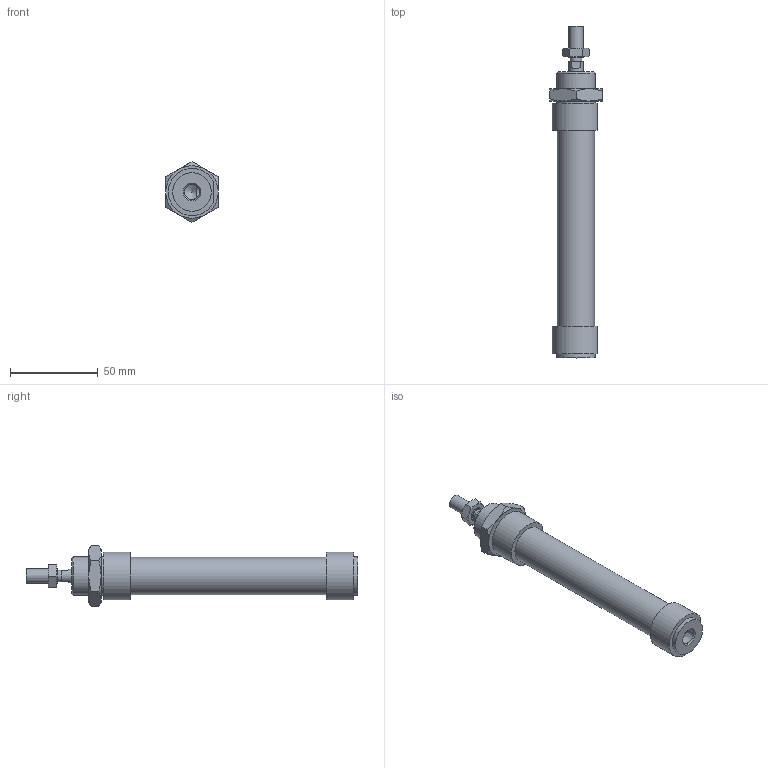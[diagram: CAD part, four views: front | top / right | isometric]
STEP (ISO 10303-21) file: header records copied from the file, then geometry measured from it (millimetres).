
FILE_DESCRIPTION((''),'2;1');
FILE_NAME('I:\Area Tecnica\Disegni\VARIE-3D\Componenti\1280\1281_##_####_#\1281_20_0075.iam.stp','2009-06-04T09:39:07',(''),(''),'Autodesk Inventor 2010','Autodesk Inventor 2010','');
FILE_SCHEMA(('AUTOMOTIVE_DESIGN { 1 0 10303 214 1 1 1 1 }'));
Length unit declared in the file: millimetre
Products named in the file (5): 1281_20_0075; C1281_20_75; S1280_20_75; 1200_20_05; 1200_20_06
Assembly tree (4 placements, depth 2):
  1281_20_0075
    C1281_20_75
    S1280_20_75
    1200_20_05
    1200_20_06
Bounding box: 30 x 189.5 x 34.64 mm (x, y, z)
Volume: 67793 mm3; surface area: 22242.2 mm2
Topology: 4 solids, 4 shells, 86 faces, 185 edges, 112 vertices
Faces by surface type: plane 36, cone 26, bspline 15, cylinder 9
Full cylindrical faces by diameter (mm): 6.5 x1, 8 x3, 21.2 x1, 22 x2
Entity records: 2537 total; most frequent: CARTESIAN_POINT 698, DIRECTION 332, ORIENTED_EDGE 310, EDGE_CURVE 155, AXIS2_PLACEMENT_3D 148, EDGE_LOOP 120, VERTEX_POINT 103, STYLED_ITEM 90
